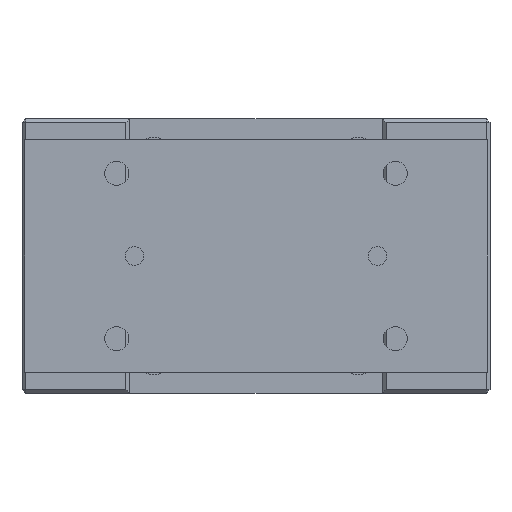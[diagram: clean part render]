
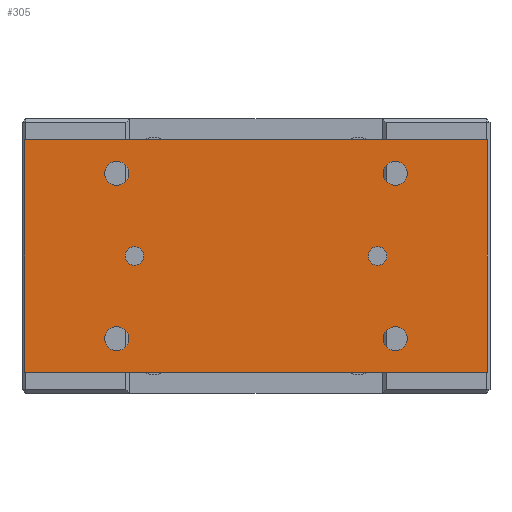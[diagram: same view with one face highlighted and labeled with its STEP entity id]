
A CAD part, left-side view. The second image highlights one B-rep face of the part: STEP entity #305.
In plain terms, the highlighted planar face has unit normal (-1, 0, 0).
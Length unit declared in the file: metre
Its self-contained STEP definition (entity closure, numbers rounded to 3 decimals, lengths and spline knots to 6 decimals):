
#305 = ADVANCED_FACE( '', ( #843, #844, #845, #846, #847, #848, #849 ), #850, .T. );
#843 = FACE_BOUND( '', #1733, .T. );
#844 = FACE_BOUND( '', #1734, .T. );
#845 = FACE_BOUND( '', #1735, .T. );
#846 = FACE_BOUND( '', #1736, .T. );
#847 = FACE_BOUND( '', #1737, .T. );
#848 = FACE_BOUND( '', #1738, .T. );
#849 = FACE_OUTER_BOUND( '', #1739, .T. );
#850 = PLANE( '', #1740 );
#1733 = EDGE_LOOP( '', ( #2673 ) );
#1734 = EDGE_LOOP( '', ( #2674 ) );
#1735 = EDGE_LOOP( '', ( #2675 ) );
#1736 = EDGE_LOOP( '', ( #2676 ) );
#1737 = EDGE_LOOP( '', ( #2677 ) );
#1738 = EDGE_LOOP( '', ( #2678 ) );
#1739 = EDGE_LOOP( '', ( #2679, #2680, #2681, #2682 ) );
#1740 = AXIS2_PLACEMENT_3D( '', #2683, #2684, #2685 );
#2673 = ORIENTED_EDGE( '', *, *, #4360, .F. );
#2674 = ORIENTED_EDGE( '', *, *, #4361, .T. );
#2675 = ORIENTED_EDGE( '', *, *, #4354, .F. );
#2676 = ORIENTED_EDGE( '', *, *, #4362, .F. );
#2677 = ORIENTED_EDGE( '', *, *, #4363, .F. );
#2678 = ORIENTED_EDGE( '', *, *, #4364, .F. );
#2679 = ORIENTED_EDGE( '', *, *, #4365, .T. );
#2680 = ORIENTED_EDGE( '', *, *, #4366, .T. );
#2681 = ORIENTED_EDGE( '', *, *, #4367, .T. );
#2682 = ORIENTED_EDGE( '', *, *, #4368, .T. );
#2683 = CARTESIAN_POINT( '', ( -0.143, -0.1245, -0.0115 ) );
#2684 = DIRECTION( '', ( -1., 0., 0. ) );
#2685 = DIRECTION( '', ( 0., 0., 1. ) );
#4354 = EDGE_CURVE( '', #5050, #5050, #5051, .T. );
#4360 = EDGE_CURVE( '', #5060, #5060, #5061, .T. );
#4361 = EDGE_CURVE( '', #5062, #5062, #5063, .T. );
#4362 = EDGE_CURVE( '', #5064, #5064, #5065, .T. );
#4363 = EDGE_CURVE( '', #5066, #5066, #5067, .T. );
#4364 = EDGE_CURVE( '', #5068, #5068, #5069, .T. );
#4365 = EDGE_CURVE( '', #5070, #5071, #5072, .T. );
#4366 = EDGE_CURVE( '', #5071, #5073, #5074, .T. );
#4367 = EDGE_CURVE( '', #5073, #5075, #5076, .T. );
#4368 = EDGE_CURVE( '', #5075, #5070, #5077, .T. );
#5050 = VERTEX_POINT( '', #6075 );
#5051 = CIRCLE( '', #6076, 0.0065 );
#5060 = VERTEX_POINT( '', #6085 );
#5061 = CIRCLE( '', #6086, 0.005 );
#5062 = VERTEX_POINT( '', #6087 );
#5063 = CIRCLE( '', #6088, 0.005 );
#5064 = VERTEX_POINT( '', #6089 );
#5065 = CIRCLE( '', #6090, 0.0065 );
#5066 = VERTEX_POINT( '', #6091 );
#5067 = CIRCLE( '', #6092, 0.0065 );
#5068 = VERTEX_POINT( '', #6093 );
#5069 = CIRCLE( '', #6094, 0.0065 );
#5070 = VERTEX_POINT( '', #6095 );
#5071 = VERTEX_POINT( '', #6096 );
#5072 = LINE( '', #6097, #6098 );
#5073 = VERTEX_POINT( '', #6099 );
#5074 = LINE( '', #6100, #6101 );
#5075 = VERTEX_POINT( '', #6102 );
#5076 = LINE( '', #6103, #6104 );
#5077 = LINE( '', #6105, #6106 );
#6075 = CARTESIAN_POINT( '', ( -0.143, -0.075, -0.112 ) );
#6076 = AXIS2_PLACEMENT_3D( '', #7392, #7393, #7394 );
#6085 = CARTESIAN_POINT( '', ( -0.143, -0.0705, -0.074 ) );
#6086 = AXIS2_PLACEMENT_3D( '', #7404, #7405, #7406 );
#6087 = CARTESIAN_POINT( '', ( -0.143, 0.0705, -0.074 ) );
#6088 = AXIS2_PLACEMENT_3D( '', #7407, #7408, #7409 );
#6089 = CARTESIAN_POINT( '', ( -0.143, 0.075, -0.112 ) );
#6090 = AXIS2_PLACEMENT_3D( '', #7410, #7411, #7412 );
#6091 = CARTESIAN_POINT( '', ( -0.143, -0.075, -0.023 ) );
#6092 = AXIS2_PLACEMENT_3D( '', #7413, #7414, #7415 );
#6093 = CARTESIAN_POINT( '', ( -0.143, 0.075, -0.023 ) );
#6094 = AXIS2_PLACEMENT_3D( '', #7416, #7417, #7418 );
#6095 = CARTESIAN_POINT( '', ( -0.143, -0.1245, -0.1365 ) );
#6096 = CARTESIAN_POINT( '', ( -0.143, -0.1245, -0.0115 ) );
#6097 = CARTESIAN_POINT( '', ( -0.143, -0.1245, -0.1365 ) );
#6098 = VECTOR( '', #7419, 1. );
#6099 = CARTESIAN_POINT( '', ( -0.143, 0.1245, -0.0115 ) );
#6100 = CARTESIAN_POINT( '', ( -0.143, -0.1245, -0.0115 ) );
#6101 = VECTOR( '', #7420, 1. );
#6102 = CARTESIAN_POINT( '', ( -0.143, 0.1245, -0.1365 ) );
#6103 = CARTESIAN_POINT( '', ( -0.143, 0.1245, -0.0115 ) );
#6104 = VECTOR( '', #7421, 1. );
#6105 = CARTESIAN_POINT( '', ( -0.143, 0.1245, -0.1365 ) );
#6106 = VECTOR( '', #7422, 1. );
#7392 = CARTESIAN_POINT( '', ( -0.143, -0.075, -0.1185 ) );
#7393 = DIRECTION( '', ( -1., 0., 0. ) );
#7394 = DIRECTION( '', ( 0., 0., 1. ) );
#7404 = CARTESIAN_POINT( '', ( -0.143, -0.0655, -0.074 ) );
#7405 = DIRECTION( '', ( -1., 0., 0. ) );
#7406 = DIRECTION( '', ( 0., -1., 0. ) );
#7407 = CARTESIAN_POINT( '', ( -0.143, 0.0655, -0.074 ) );
#7408 = DIRECTION( '', ( 1., 0., 0. ) );
#7409 = DIRECTION( '', ( 0., 1., 0. ) );
#7410 = CARTESIAN_POINT( '', ( -0.143, 0.075, -0.1185 ) );
#7411 = DIRECTION( '', ( -1., 0., 0. ) );
#7412 = DIRECTION( '', ( 0., 0., 1. ) );
#7413 = CARTESIAN_POINT( '', ( -0.143, -0.075, -0.0295 ) );
#7414 = DIRECTION( '', ( -1., 0., 0. ) );
#7415 = DIRECTION( '', ( 0., 0., 1. ) );
#7416 = CARTESIAN_POINT( '', ( -0.143, 0.075, -0.0295 ) );
#7417 = DIRECTION( '', ( -1., 0., 0. ) );
#7418 = DIRECTION( '', ( 0., 0., 1. ) );
#7419 = DIRECTION( '', ( 0., 0., 1. ) );
#7420 = DIRECTION( '', ( 0., 1., 0. ) );
#7421 = DIRECTION( '', ( 0., 0., -1. ) );
#7422 = DIRECTION( '', ( 0., -1., 0. ) );
